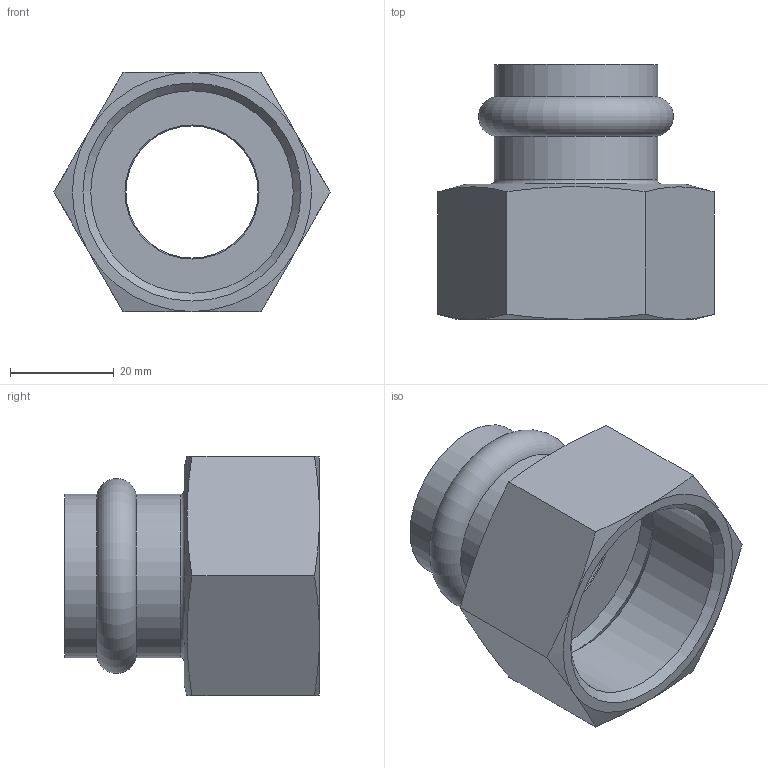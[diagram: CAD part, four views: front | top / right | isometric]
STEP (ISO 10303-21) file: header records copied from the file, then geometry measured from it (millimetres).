
FILE_DESCRIPTION(/* description */ (''),/* implementation_level */ '2;1');
FILE_NAME(/* name */ 'C:\Users\Vault\Desktop\Articoli_INOXPRES UNIKO\190_INOXPRES_UNIKO\190114028U_Inoxpres_Uniko.stp',/* time_stamp */ '2022-10-06T11:34:49+02:00',/* author */ ('Vault'),/* organization */ ('Raccorderie metalliche s.p.a. '),/* preprocessor_version */ 'ST-DEVELOPER v18.1',/* originating_system */ 'Autodesk Inventor 2020',/* authorisation */ 'Raccorderie metalliche s.p.a. ');
FILE_SCHEMA (('AUTOMOTIVE_DESIGN { 1 0 10303 214 3 1 1 }'));
Length unit declared in the file: millimetre
Products named in the file (1): 190114028V_Inoxpres_Uniko
Bounding box: 53.12 x 49 x 46 mm (x, y, z)
Volume: 22174.1 mm3; surface area: 14760.4 mm2
Topology: 1 solids, 1 shells, 35 faces, 88 edges, 58 vertices
Faces by surface type: cone 13, plane 11, cylinder 7, torus 4
Full cylindrical faces by diameter (mm): 25.4 x1, 28.4 x2, 31.4 x2, 38.952 x1, 43 x1
Entity records: 1101 total; most frequent: CARTESIAN_POINT 220, DIRECTION 190, ORIENTED_EDGE 176, EDGE_CURVE 88, AXIS2_PLACEMENT_3D 85, VERTEX_POINT 58, CIRCLE 49, EDGE_LOOP 40
